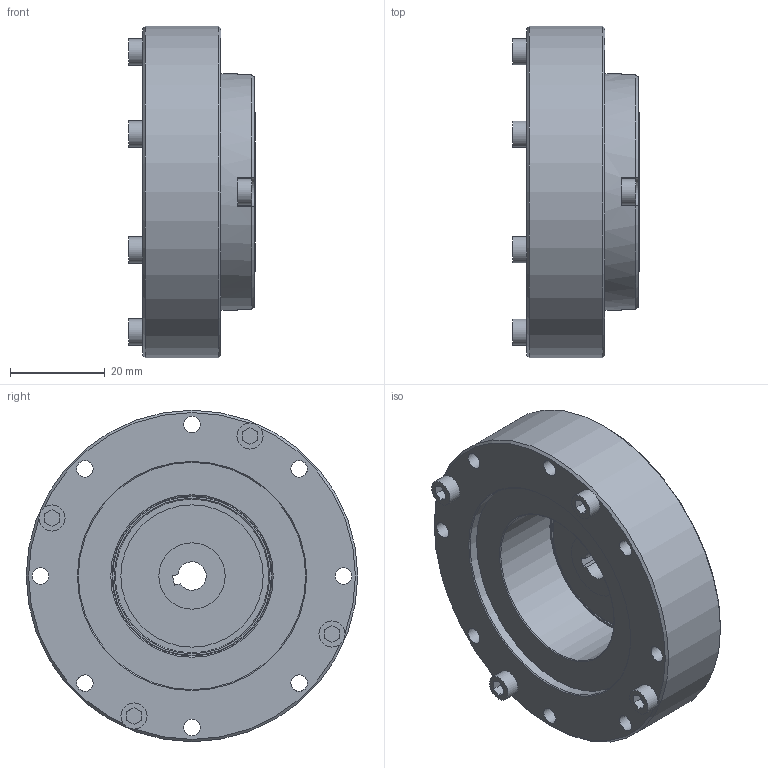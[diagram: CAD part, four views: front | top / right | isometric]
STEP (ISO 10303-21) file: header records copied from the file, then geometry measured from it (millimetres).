
FILE_DESCRIPTION(/* description */ (''),/* implementation_level */ '2;1');
FILE_NAME(/* name */ 'LHG-14-U-I_stp.stp',/* time_stamp */ '2021-12-15T13:27:44+08:00',/* author */ (''),/* organization */ (''),/* preprocessor_version */ 'ST-DEVELOPER v16.7',/* originating_system */ 'SIEMENS PLM Software NX 12.0',/* authorisation */ '');
FILE_SCHEMA (('AUTOMOTIVE_DESIGN { 1 0 10303 214 3 1 1 1 }'));
Length unit declared in the file: millimetre
Products named in the file (1): LHG-14-U-I_stp
Bounding box: 26.78 x 70 x 70 mm (x, y, z)
Volume: 57529 mm3; surface area: 24238.8 mm2
Topology: 15 solids, 15 shells, 250 faces, 582 edges, 388 vertices
Faces by surface type: plane 131, cylinder 76, cone 36, torus 7
Full cylindrical faces by diameter (mm): 2.459 x2, 2.5 x12, 3 x4, 3.5 x30, 5.5 x10, 14 x1, 25 x2, 26.5 x2, 30.04 x1, 32.42 x2, 33.92 x2, 48 x1, 50 x1, 70 x1
Entity records: 6197 total; most frequent: DIRECTION 1088, CARTESIAN_POINT 991, ORIENTED_EDGE 808, AXIS2_PLACEMENT_3D 433, EDGE_LOOP 412, EDGE_CURVE 404, VERTEX_POINT 336, FACE_BOUND 326
